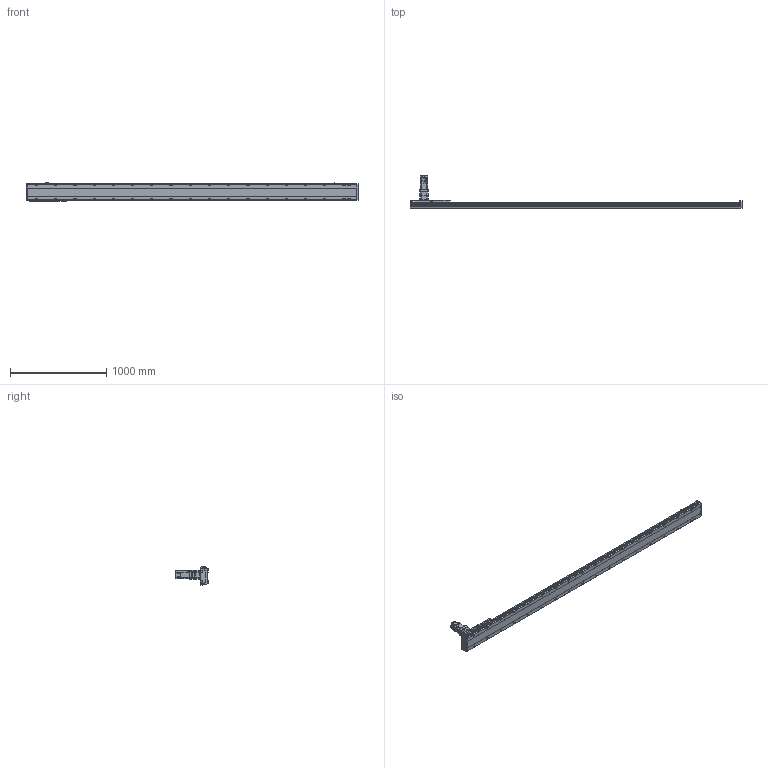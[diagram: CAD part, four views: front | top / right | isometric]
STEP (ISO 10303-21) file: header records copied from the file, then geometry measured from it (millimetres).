
FILE_DESCRIPTION(/* description */ ('STEP AP203'),/* implementation_level */ '2;1');
FILE_NAME(/* name */ 'SHS17A-L13-S3000-BC-T75-C1-N(0)',/* time_stamp */ '2023-03-27T08:58:27+02:00',/* author */ ('License CC BY-ND 4.0'),/* organization */ ('CADENAS'),/* preprocessor_version */ 'ST-DEVELOPER v19.3',/* originating_system */ 'PARTsolutions',/* authorisation */ ' ');
FILE_SCHEMA (('CONFIG_CONTROL_DESIGN'));
Length unit declared in the file: millimetre
Products named in the file (7): SHS17A-L13-S3000-BC-T75-C1-N(0); PSC140-sensor; SHS17A-S3000(0)_body2; T75-p1; SHS17A-S3000_body3; SHS17A-S3000-C1(0)_slider; SHS17A-S3000-C1(0)_body
Assembly tree (13 placements, depth 2):
  SHS17A-L13-S3000-BC-T75-C1-N(0)
    PSC140-sensor  x3
    SHS17A-S3000(0)_body2  x6
    T75-p1
    SHS17A-S3000_body3
    SHS17A-S3000-C1(0)_slider
    SHS17A-S3000-C1(0)_body
Bounding box: 3454 x 333.8 x 193.4 mm (x, y, z)
Volume: 24216621.5 mm3; surface area: 2799794.1 mm2
Topology: 13 solids, 13 shells, 2232 faces, 5681 edges, 3700 vertices
Faces by surface type: plane 1403, cylinder 736, cone 90, torus 3
Full cylindrical faces by diameter (mm): 2.8 x3, 4.134 x24, 4.5 x2, 4.6 x3, 4.917 x15, 5.5 x48, 6 x7, 6.5 x24, 6.647 x44, 6.8 x9, 8 x3, 8.5 x36, 10 x28, 11 x4, 14 x36, 22 x1, 24 x1, 24.2 x1, 28 x1, 28.2 x1, 28.8 x1, 29.8 x1, 48.542 x1, 68 x1, 70 x1, 78 x1, 80 x2
Entity records: 43752 total; most frequent: CARTESIAN_POINT 8628, DIRECTION 7123, ORIENTED_EDGE 6876, EDGE_CURVE 3438, AXIS2_PLACEMENT_3D 2526, VERTEX_POINT 2419, LINE 2071, VECTOR 2071
